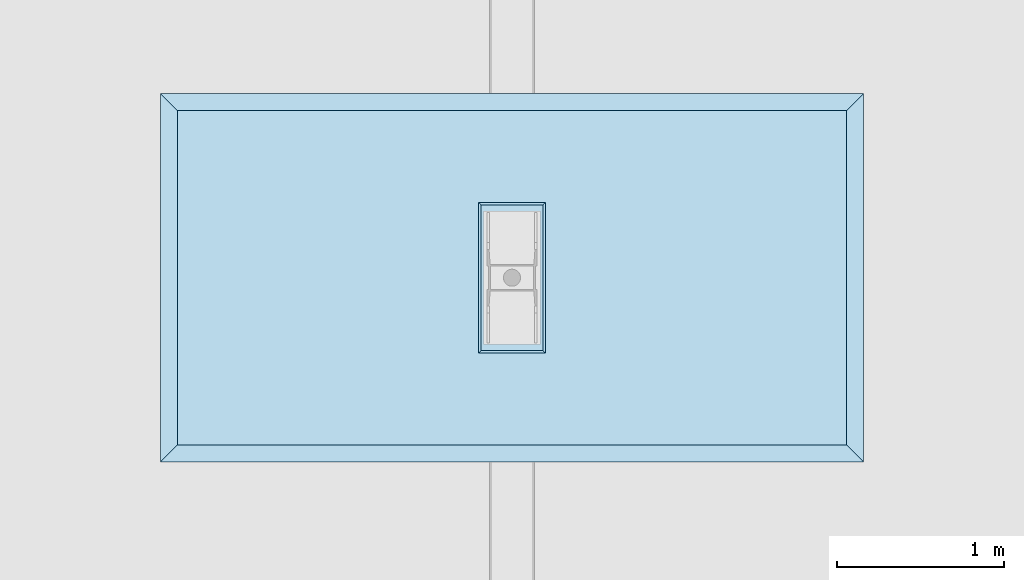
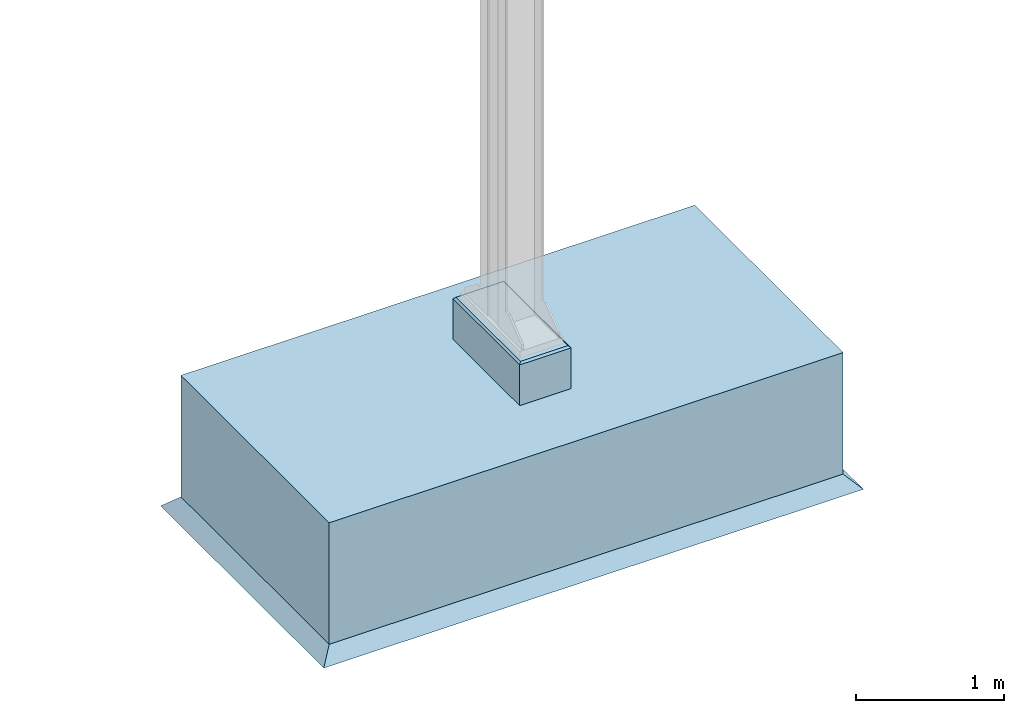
# One storey, incomplete: 1 slab.
"""IFC4 building model written with IfcOpenShell, lengths in metres."""

from ifc_helpers import new_model, entity, si_unit, converted_unit, direction, origin, place, context, subcontext, project, spatial, polygons, material, type_object, element, save


model = new_model("IFC4")

# Units and contexts
model_context = context("Model", 3, precision=1e-05, world=origin(), true_north=direction((6.123031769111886e-17, 1.0)))
body_context = subcontext(model_context, "Body", "Model", "MODEL_VIEW")
ifc_project = project(units=[si_unit("LENGTHUNIT", "METRE"), converted_unit("PLANEANGLEUNIT", "DEGREE", entity("IfcPlaneAngleMeasure", 0.017453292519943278), si_unit("PLANEANGLEUNIT", "RADIAN"), dimensions=[0, 0, 0, 0, 0, 0, 0])], contexts=[model_context])

# Site, building, storey
site_placement = place(None, origin())
site = spatial("IfcSite", under=ifc_project, at=site_placement, Name="Default", CompositionType="ELEMENT")
building_placement = place(site_placement, origin())
building = spatial("IfcBuilding", under=site, at=building_placement, CompositionType="ELEMENT")
storey_placement = place(building_placement, origin())
storey = spatial("IfcBuildingStorey", under=building, at=storey_placement, Name="Ebene 0", CompositionType="ELEMENT", Elevation=0.0)

# Slab
ifc_material = material(Name="DB_Ortbeton", Category="DB_Beton")
slab_type = type_object("IfcSlabType", Name="DB_Systemdach_Fundament_Typ3:Variante1", PredefinedType="BASESLAB", material=ifc_material)
slab_placement = place(storey_placement, origin())
element("IfcSlab", 1, at=slab_placement, inside=storey, type_object=slab_type, Name="DB_Systemdach_Fundament_Typ3:Variante1", ObjectType="DB_Systemdach_Fundament_Typ3:Variante1", PredefinedType="BASESLAB", context=body_context, shape_type="Tessellation", body=[
    polygons([(1.9999999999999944, 1.0000000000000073, -0.25000000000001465), (-2.0000000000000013, 1.000000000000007, -0.25000000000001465), (-2.0000000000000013, -0.999999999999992, -0.25000000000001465), (1.9999999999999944, -0.999999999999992, -0.25000000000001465), (1.9999999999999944, 1.0000000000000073, -1.2500000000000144), (1.9999999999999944, -0.999999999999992, -1.2500000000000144), (-2.0000000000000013, -0.999999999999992, -1.2500000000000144), (-2.0000000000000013, 1.000000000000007, -1.2500000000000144)], [[[1, 2, 3, 4]], [[5, 6, 7, 8]], [[2, 1, 5, 8]], [[3, 2, 8, 7]], [[4, 3, 7, 6]], [[1, 4, 6, 5]]], closed=True),
    polygons([(1.9999999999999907, 1.0000000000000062, -1.2500000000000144), (-2.0000000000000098, 1.0000000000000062, -1.2500000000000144), (-2.000000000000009, -1.0000000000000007, -1.2500000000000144), (1.9999999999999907, -1.0000000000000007, -1.2500000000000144), (2.0999999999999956, 1.100000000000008, -1.3500000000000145), (2.0999999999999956, -1.1000000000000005, -1.3500000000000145), (-2.1000000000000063, -1.1000000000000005, -1.3500000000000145), (-2.1000000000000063, 1.100000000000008, -1.3500000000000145)], [[[1, 2, 3, 4]], [[5, 6, 7, 8]], [[5, 8, 2, 1]], [[8, 7, 3, 2]], [[7, 6, 4, 3]], [[6, 5, 1, 4]]], closed=True),
    polygons([(0.19999999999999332, 0.4499999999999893, 0.08500000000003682), (-0.20000000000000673, 0.4499999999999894, 0.08500000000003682), (-0.20000000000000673, -0.4499999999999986, 0.08500000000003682), (0.19999999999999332, -0.4499999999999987, 0.08500000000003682), (0.19999999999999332, 0.4499999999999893, -0.2500000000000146), (0.19999999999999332, -0.4499999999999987, -0.2500000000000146), (-0.20000000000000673, -0.4499999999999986, -0.2500000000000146), (-0.20000000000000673, 0.4499999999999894, -0.2500000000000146)], [[[1, 2, 3, 4]], [[5, 6, 7, 8]], [[2, 1, 5, 8]], [[3, 2, 8, 7]], [[4, 3, 7, 6]], [[1, 4, 6, 5]]], closed=True),
    polygons([(-0.18500000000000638, 0.43499999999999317, 0.09999999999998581), (-0.18500000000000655, -0.4349999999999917, 0.09999999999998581), (0.18499999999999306, -0.4349999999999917, 0.09999999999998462), (0.1849999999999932, 0.43499999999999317, 0.09999999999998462), (-0.20000000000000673, 0.4499999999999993, 0.0850000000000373), (0.1999999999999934, 0.4499999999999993, 0.08500000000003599), (0.1999999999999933, -0.4499999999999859, 0.08500000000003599), (-0.20000000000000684, -0.4499999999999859, 0.0850000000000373)], [[[1, 2, 3, 4]], [[5, 6, 7, 8]], [[6, 5, 1, 4]], [[7, 6, 4, 3]], [[8, 7, 3, 2]], [[5, 8, 2, 1]]], closed=True),
])

save(model, "model.ifc")
